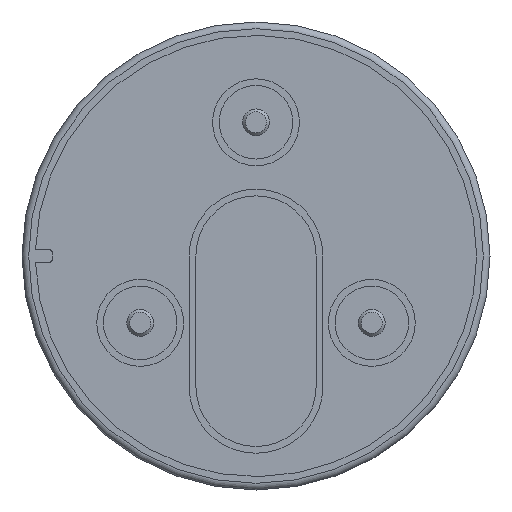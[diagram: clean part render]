
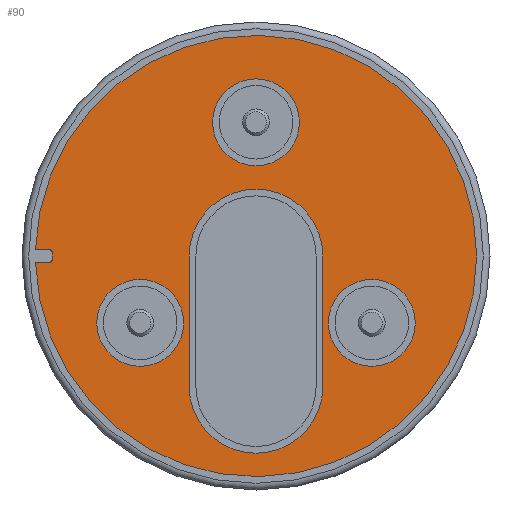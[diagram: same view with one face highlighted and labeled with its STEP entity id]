
A CAD part, front view. The second image highlights one B-rep face of the part: STEP entity #90.
In plain terms, the highlighted planar face has unit normal (0, -1, 0).
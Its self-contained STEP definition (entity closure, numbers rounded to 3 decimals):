
#90 = ADVANCED_FACE( '', ( #167, #168, #169, #170, #171 ), #172, .F. );
#167 = FACE_BOUND( '', #302, .T. );
#168 = FACE_BOUND( '', #303, .T. );
#169 = FACE_BOUND( '', #304, .T. );
#170 = FACE_BOUND( '', #305, .T. );
#171 = FACE_OUTER_BOUND( '', #306, .T. );
#172 = PLANE( '', #307 );
#302 = EDGE_LOOP( '', ( #524 ) );
#303 = EDGE_LOOP( '', ( #525, #526, #527, #528 ) );
#304 = EDGE_LOOP( '', ( #529 ) );
#305 = EDGE_LOOP( '', ( #530 ) );
#306 = EDGE_LOOP( '', ( #531, #532, #533, #534, #535, #536 ) );
#307 = AXIS2_PLACEMENT_3D( '', #537, #538, #539 );
#524 = ORIENTED_EDGE( '', *, *, #758, .T. );
#525 = ORIENTED_EDGE( '', *, *, #761, .T. );
#526 = ORIENTED_EDGE( '', *, *, #756, .T. );
#527 = ORIENTED_EDGE( '', *, *, #734, .T. );
#528 = ORIENTED_EDGE( '', *, *, #760, .T. );
#529 = ORIENTED_EDGE( '', *, *, #731, .T. );
#530 = ORIENTED_EDGE( '', *, *, #730, .T. );
#531 = ORIENTED_EDGE( '', *, *, #762, .F. );
#532 = ORIENTED_EDGE( '', *, *, #763, .F. );
#533 = ORIENTED_EDGE( '', *, *, #764, .T. );
#534 = ORIENTED_EDGE( '', *, *, #765, .F. );
#535 = ORIENTED_EDGE( '', *, *, #766, .T. );
#536 = ORIENTED_EDGE( '', *, *, #767, .F. );
#537 = CARTESIAN_POINT( '', ( 0., 1., 0. ) );
#538 = DIRECTION( '', ( 0., 1., 0. ) );
#539 = DIRECTION( '', ( 0., 0., 1. ) );
#730 = EDGE_CURVE( '', #809, #809, #810, .T. );
#731 = EDGE_CURVE( '', #811, #811, #812, .T. );
#734 = EDGE_CURVE( '', #818, #815, #819, .T. );
#756 = EDGE_CURVE( '', #858, #818, #859, .T. );
#758 = EDGE_CURVE( '', #861, #861, #862, .T. );
#760 = EDGE_CURVE( '', #815, #863, #865, .T. );
#761 = EDGE_CURVE( '', #863, #858, #866, .T. );
#762 = EDGE_CURVE( '', #867, #868, #869, .T. );
#763 = EDGE_CURVE( '', #870, #867, #871, .T. );
#764 = EDGE_CURVE( '', #870, #872, #873, .T. );
#765 = EDGE_CURVE( '', #874, #872, #875, .T. );
#766 = EDGE_CURVE( '', #874, #876, #877, .T. );
#767 = EDGE_CURVE( '', #868, #876, #878, .T. );
#809 = VERTEX_POINT( '', #943 );
#810 = CIRCLE( '', #944, 6.5 );
#811 = VERTEX_POINT( '', #945 );
#812 = CIRCLE( '', #946, 6.5 );
#815 = VERTEX_POINT( '', #949 );
#818 = VERTEX_POINT( '', #953 );
#819 = LINE( '', #954, #955 );
#858 = VERTEX_POINT( '', #1002 );
#859 = CIRCLE( '', #1003, 10. );
#861 = VERTEX_POINT( '', #1006 );
#862 = CIRCLE( '', #1007, 6.5 );
#863 = VERTEX_POINT( '', #1008 );
#865 = CIRCLE( '', #1011, 10. );
#866 = LINE( '', #1012, #1013 );
#867 = VERTEX_POINT( '', #1014 );
#868 = VERTEX_POINT( '', #1015 );
#869 = CIRCLE( '', #1016, 33. );
#870 = VERTEX_POINT( '', #1017 );
#871 = LINE( '', #1018, #1019 );
#872 = VERTEX_POINT( '', #1020 );
#873 = CIRCLE( '', #1021, 0.5 );
#874 = VERTEX_POINT( '', #1022 );
#875 = LINE( '', #1023, #1024 );
#876 = VERTEX_POINT( '', #1025 );
#877 = CIRCLE( '', #1026, 0.5 );
#878 = LINE( '', #1027, #1028 );
#943 = CARTESIAN_POINT( '', ( 23.821, 1., -10. ) );
#944 = AXIS2_PLACEMENT_3D( '', #1109, #1110, #1111 );
#945 = CARTESIAN_POINT( '', ( 6.5, 1., 20. ) );
#946 = AXIS2_PLACEMENT_3D( '', #1112, #1113, #1114 );
#949 = CARTESIAN_POINT( '', ( 10., 1., -19.5 ) );
#953 = CARTESIAN_POINT( '', ( 10., 1., 0. ) );
#954 = CARTESIAN_POINT( '', ( 10., 1., 0. ) );
#955 = VECTOR( '', #1119, 1000. );
#1002 = CARTESIAN_POINT( '', ( -10., 1., 0. ) );
#1003 = AXIS2_PLACEMENT_3D( '', #1164, #1165, #1166 );
#1006 = CARTESIAN_POINT( '', ( -10.821, 1., -10. ) );
#1007 = AXIS2_PLACEMENT_3D( '', #1168, #1169, #1170 );
#1008 = CARTESIAN_POINT( '', ( -10., 1., -19.5 ) );
#1011 = AXIS2_PLACEMENT_3D( '', #1172, #1173, #1174 );
#1012 = CARTESIAN_POINT( '', ( -10., 1., -19.5 ) );
#1013 = VECTOR( '', #1175, 1000. );
#1014 = CARTESIAN_POINT( '', ( -32.985, 1., 1. ) );
#1015 = CARTESIAN_POINT( '', ( -32.985, 1., -1. ) );
#1016 = AXIS2_PLACEMENT_3D( '', #1176, #1177, #1178 );
#1017 = CARTESIAN_POINT( '', ( -31., 1., 1. ) );
#1018 = CARTESIAN_POINT( '', ( -31., 1., 1. ) );
#1019 = VECTOR( '', #1179, 1000. );
#1020 = CARTESIAN_POINT( '', ( -30.5, 1., 0.5 ) );
#1021 = AXIS2_PLACEMENT_3D( '', #1180, #1181, #1182 );
#1022 = CARTESIAN_POINT( '', ( -30.5, 1., -0.5 ) );
#1023 = CARTESIAN_POINT( '', ( -30.5, 1., -0.5 ) );
#1024 = VECTOR( '', #1183, 1000. );
#1025 = CARTESIAN_POINT( '', ( -31., 1., -1. ) );
#1026 = AXIS2_PLACEMENT_3D( '', #1184, #1185, #1186 );
#1027 = CARTESIAN_POINT( '', ( -32.985, 1., -1. ) );
#1028 = VECTOR( '', #1187, 1000. );
#1109 = CARTESIAN_POINT( '', ( 17.321, 1., -10. ) );
#1110 = DIRECTION( '', ( 0., 1., 0. ) );
#1111 = DIRECTION( '', ( 1., 0., 0. ) );
#1112 = CARTESIAN_POINT( '', ( 0., 1., 20. ) );
#1113 = DIRECTION( '', ( 0., 1., 0. ) );
#1114 = DIRECTION( '', ( 1., 0., 0. ) );
#1119 = DIRECTION( '', ( 0., 0., -1. ) );
#1164 = CARTESIAN_POINT( '', ( 0., 1., 0. ) );
#1165 = DIRECTION( '', ( 0., 1., 0. ) );
#1166 = DIRECTION( '', ( 1., 0., 0. ) );
#1168 = CARTESIAN_POINT( '', ( -17.321, 1., -10. ) );
#1169 = DIRECTION( '', ( 0., 1., 0. ) );
#1170 = DIRECTION( '', ( 1., 0., 0. ) );
#1172 = CARTESIAN_POINT( '', ( 0., 1., -19.5 ) );
#1173 = DIRECTION( '', ( 0., 1., 0. ) );
#1174 = DIRECTION( '', ( 1., 0., 0. ) );
#1175 = DIRECTION( '', ( 0., 0., 1. ) );
#1176 = CARTESIAN_POINT( '', ( 0., 1., 0. ) );
#1177 = DIRECTION( '', ( 0., 1., 0. ) );
#1178 = DIRECTION( '', ( 1., 0., 0. ) );
#1179 = DIRECTION( '', ( -1., 0., 0. ) );
#1180 = CARTESIAN_POINT( '', ( -31., 1., 0.5 ) );
#1181 = DIRECTION( '', ( 0., 1., 0. ) );
#1182 = DIRECTION( '', ( 1., 0., 0. ) );
#1183 = DIRECTION( '', ( 0., 0., 1. ) );
#1184 = CARTESIAN_POINT( '', ( -31., 1., -0.5 ) );
#1185 = DIRECTION( '', ( 0., 1., 0. ) );
#1186 = DIRECTION( '', ( 1., 0., 0. ) );
#1187 = DIRECTION( '', ( 1., 0., 0. ) );
